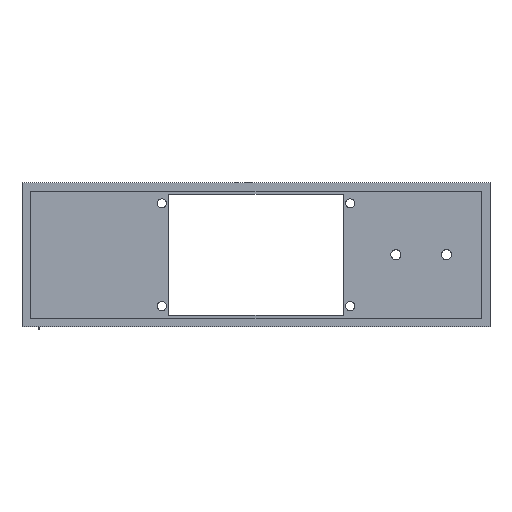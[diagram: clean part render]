
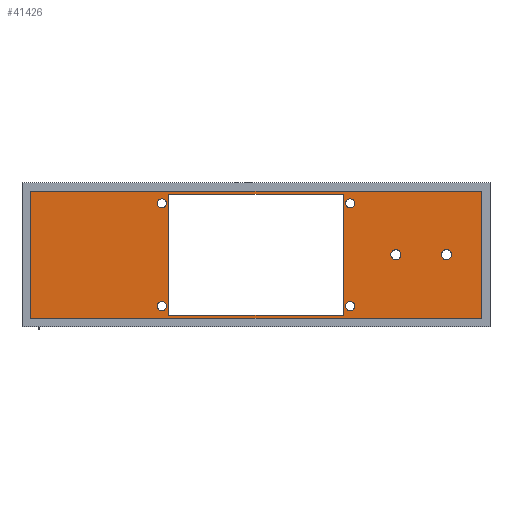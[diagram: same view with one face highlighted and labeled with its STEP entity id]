
A CAD part, top view. The second image highlights one B-rep face of the part: STEP entity #41426.
In plain terms, the highlighted planar face has unit normal (0, 0, 1).
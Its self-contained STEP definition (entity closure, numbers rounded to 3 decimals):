
#29436 = VERTEX_POINT('',#29437);
#29437 = CARTESIAN_POINT('',(3.,3.,2.));
#29443 = EDGE_CURVE('',#29436,#29444,#29446,.T.);
#29444 = VERTEX_POINT('',#29445);
#29445 = CARTESIAN_POINT('',(161.,3.,2.));
#29446 = LINE('',#29447,#29448);
#29447 = CARTESIAN_POINT('',(3.,3.,2.));
#29448 = VECTOR('',#29449,1.);
#29449 = DIRECTION('',(1.,0.,-0.));
#29468 = VERTEX_POINT('',#29469);
#29469 = CARTESIAN_POINT('',(161.,47.5,2.));
#29475 = EDGE_CURVE('',#29444,#29468,#29476,.T.);
#29476 = LINE('',#29477,#29478);
#29477 = CARTESIAN_POINT('',(161.,3.,2.));
#29478 = VECTOR('',#29479,1.);
#29479 = DIRECTION('',(-0.,1.,0.));
#29491 = VERTEX_POINT('',#29492);
#29492 = CARTESIAN_POINT('',(3.,47.5,2.));
#29498 = EDGE_CURVE('',#29491,#29468,#29499,.T.);
#29499 = LINE('',#29500,#29501);
#29500 = CARTESIAN_POINT('',(3.,47.5,2.));
#29501 = VECTOR('',#29502,1.);
#29502 = DIRECTION('',(1.,0.,-0.));
#29516 = EDGE_CURVE('',#29436,#29491,#29517,.T.);
#29517 = LINE('',#29518,#29519);
#29518 = CARTESIAN_POINT('',(3.,3.,2.));
#29519 = VECTOR('',#29520,1.);
#29520 = DIRECTION('',(-0.,1.,0.));
#29530 = EDGE_CURVE('',#29531,#29531,#29533,.T.);
#29531 = VERTEX_POINT('',#29532);
#29532 = CARTESIAN_POINT('',(50.6,7.25,2.));
#29533 = CIRCLE('',#29534,1.6);
#29534 = AXIS2_PLACEMENT_3D('',#29535,#29536,#29537);
#29535 = CARTESIAN_POINT('',(49.,7.25,2.));
#29536 = DIRECTION('',(0.,0.,1.));
#29537 = DIRECTION('',(1.,0.,-0.));
#36303 = EDGE_CURVE('',#36304,#36304,#36306,.T.);
#36304 = VERTEX_POINT('',#36305);
#36305 = CARTESIAN_POINT('',(116.6,7.25,2.));
#36306 = CIRCLE('',#36307,1.6);
#36307 = AXIS2_PLACEMENT_3D('',#36308,#36309,#36310);
#36308 = CARTESIAN_POINT('',(115.,7.25,2.));
#36309 = DIRECTION('',(0.,0.,1.));
#36310 = DIRECTION('',(1.,0.,-0.));
#41234 = EDGE_CURVE('',#41235,#41235,#41237,.T.);
#41235 = VERTEX_POINT('',#41236);
#41236 = CARTESIAN_POINT('',(50.6,43.25,2.));
#41237 = CIRCLE('',#41238,1.6);
#41238 = AXIS2_PLACEMENT_3D('',#41239,#41240,#41241);
#41239 = CARTESIAN_POINT('',(49.,43.25,2.));
#41240 = DIRECTION('',(0.,0.,1.));
#41241 = DIRECTION('',(1.,0.,-0.));
#41260 = VERTEX_POINT('',#41261);
#41261 = CARTESIAN_POINT('',(112.5,4.,2.));
#41269 = VERTEX_POINT('',#41270);
#41270 = CARTESIAN_POINT('',(51.5,4.,2.));
#41276 = EDGE_CURVE('',#41260,#41269,#41277,.T.);
#41277 = LINE('',#41278,#41279);
#41278 = CARTESIAN_POINT('',(27.25,4.,2.));
#41279 = VECTOR('',#41280,1.);
#41280 = DIRECTION('',(-1.,-0.,0.));
#41293 = VERTEX_POINT('',#41294);
#41294 = CARTESIAN_POINT('',(112.5,46.5,2.));
#41300 = EDGE_CURVE('',#41260,#41293,#41301,.T.);
#41301 = LINE('',#41302,#41303);
#41302 = CARTESIAN_POINT('',(112.5,3.5,2.));
#41303 = VECTOR('',#41304,1.);
#41304 = DIRECTION('',(-0.,1.,0.));
#41317 = VERTEX_POINT('',#41318);
#41318 = CARTESIAN_POINT('',(51.5,46.5,2.));
#41324 = EDGE_CURVE('',#41269,#41317,#41325,.T.);
#41325 = LINE('',#41326,#41327);
#41326 = CARTESIAN_POINT('',(51.5,3.5,2.));
#41327 = VECTOR('',#41328,1.);
#41328 = DIRECTION('',(-0.,1.,0.));
#41341 = EDGE_CURVE('',#41293,#41317,#41342,.T.);
#41342 = LINE('',#41343,#41344);
#41343 = CARTESIAN_POINT('',(27.25,46.5,2.));
#41344 = VECTOR('',#41345,1.);
#41345 = DIRECTION('',(-1.,-0.,0.));
#41355 = EDGE_CURVE('',#41356,#41356,#41358,.T.);
#41356 = VERTEX_POINT('',#41357);
#41357 = CARTESIAN_POINT('',(132.75,25.25,2.));
#41358 = CIRCLE('',#41359,1.75);
#41359 = AXIS2_PLACEMENT_3D('',#41360,#41361,#41362);
#41360 = CARTESIAN_POINT('',(131.,25.25,2.));
#41361 = DIRECTION('',(0.,0.,1.));
#41362 = DIRECTION('',(1.,0.,-0.));
#41380 = EDGE_CURVE('',#41381,#41381,#41383,.T.);
#41381 = VERTEX_POINT('',#41382);
#41382 = CARTESIAN_POINT('',(150.5,25.25,2.));
#41383 = CIRCLE('',#41384,1.75);
#41384 = AXIS2_PLACEMENT_3D('',#41385,#41386,#41387);
#41385 = CARTESIAN_POINT('',(148.75,25.25,2.));
#41386 = DIRECTION('',(0.,0.,1.));
#41387 = DIRECTION('',(1.,0.,-0.));
#41405 = EDGE_CURVE('',#41406,#41406,#41408,.T.);
#41406 = VERTEX_POINT('',#41407);
#41407 = CARTESIAN_POINT('',(116.6,43.25,2.));
#41408 = CIRCLE('',#41409,1.6);
#41409 = AXIS2_PLACEMENT_3D('',#41410,#41411,#41412);
#41410 = CARTESIAN_POINT('',(115.,43.25,2.));
#41411 = DIRECTION('',(0.,0.,1.));
#41412 = DIRECTION('',(1.,0.,-0.));
#41426 = ADVANCED_FACE('',(#41427,#41433,#41436,#41439,#41445,#41448,
    #41451,#41454),#41457,.T.);
#41427 = FACE_BOUND('',#41428,.T.);
#41428 = EDGE_LOOP('',(#41429,#41430,#41431,#41432));
#41429 = ORIENTED_EDGE('',*,*,#29516,.F.);
#41430 = ORIENTED_EDGE('',*,*,#29443,.T.);
#41431 = ORIENTED_EDGE('',*,*,#29475,.T.);
#41432 = ORIENTED_EDGE('',*,*,#29498,.F.);
#41433 = FACE_BOUND('',#41434,.T.);
#41434 = EDGE_LOOP('',(#41435));
#41435 = ORIENTED_EDGE('',*,*,#29530,.F.);
#41436 = FACE_BOUND('',#41437,.T.);
#41437 = EDGE_LOOP('',(#41438));
#41438 = ORIENTED_EDGE('',*,*,#36303,.F.);
#41439 = FACE_BOUND('',#41440,.T.);
#41440 = EDGE_LOOP('',(#41441,#41442,#41443,#41444));
#41441 = ORIENTED_EDGE('',*,*,#41276,.T.);
#41442 = ORIENTED_EDGE('',*,*,#41324,.T.);
#41443 = ORIENTED_EDGE('',*,*,#41341,.F.);
#41444 = ORIENTED_EDGE('',*,*,#41300,.F.);
#41445 = FACE_BOUND('',#41446,.T.);
#41446 = EDGE_LOOP('',(#41447));
#41447 = ORIENTED_EDGE('',*,*,#41234,.F.);
#41448 = FACE_BOUND('',#41449,.T.);
#41449 = EDGE_LOOP('',(#41450));
#41450 = ORIENTED_EDGE('',*,*,#41355,.F.);
#41451 = FACE_BOUND('',#41452,.T.);
#41452 = EDGE_LOOP('',(#41453));
#41453 = ORIENTED_EDGE('',*,*,#41380,.F.);
#41454 = FACE_BOUND('',#41455,.T.);
#41455 = EDGE_LOOP('',(#41456));
#41456 = ORIENTED_EDGE('',*,*,#41405,.F.);
#41457 = PLANE('',#41458);
#41458 = AXIS2_PLACEMENT_3D('',#41459,#41460,#41461);
#41459 = CARTESIAN_POINT('',(3.,3.,2.));
#41460 = DIRECTION('',(0.,0.,1.));
#41461 = DIRECTION('',(1.,0.,-0.));
